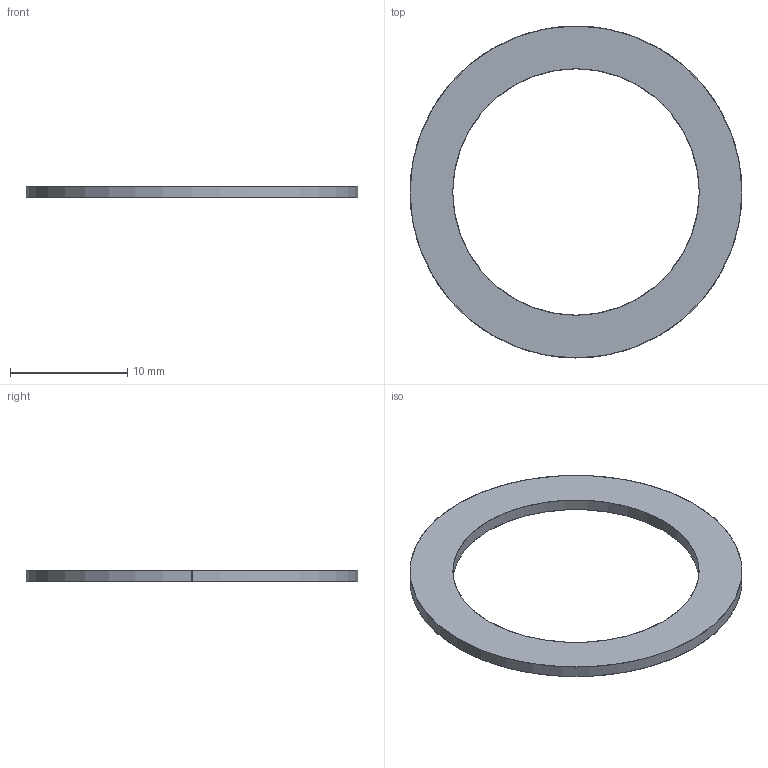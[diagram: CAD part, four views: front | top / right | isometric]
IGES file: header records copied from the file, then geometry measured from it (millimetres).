
Start section: SolidWorks IGES file using analytic representation for surfaces
Global section: file name: R:\DESIGN STORE\PRODUCTS\INDOOR AIRING\C0249 Bed Bath & Beyond X-Wing\stage 1\solidworks\C2\C0249 Iges 091013\C0249_107_C2_plastic spacer 1_A.IGS; native system: SolidWorks 2013; preprocessor: SolidWorks 2013; author: howardm; date: 131009.162043; units: millimetre
Bounding box: 28.33 x 28.33 x 1 mm (x, y, z)
Surface area: 721.3 mm2 (no closed solid volume)
Topology: 0 solids, 0 shells, 6 faces, 208 edges, 208 vertices
Faces by surface type: revolution 4, bspline 2
